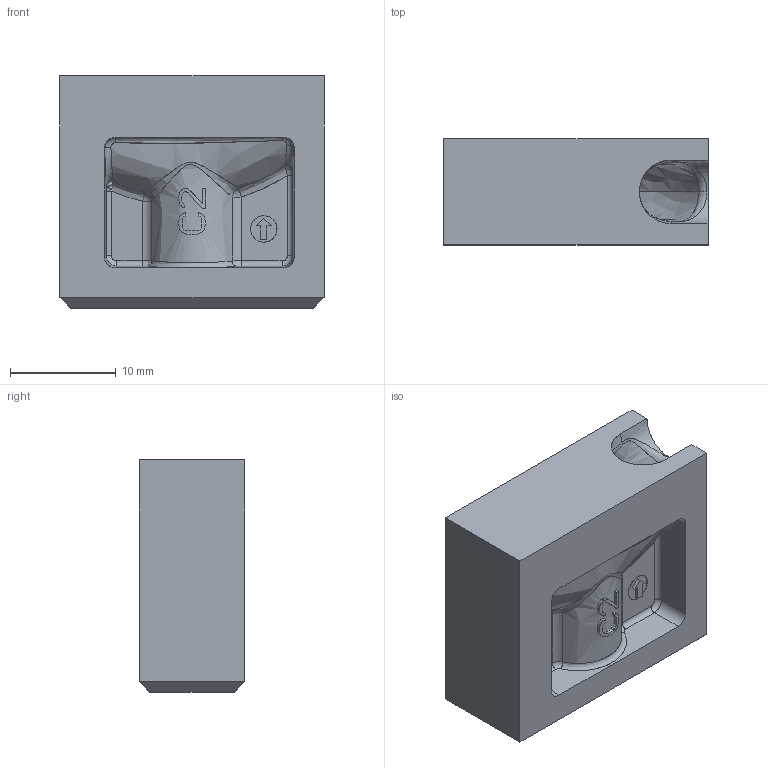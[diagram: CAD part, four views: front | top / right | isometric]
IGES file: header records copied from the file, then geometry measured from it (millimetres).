
Start section: VISI Layer Mapping Iges    VISI  0      0  1      WARNINGS
Global section: file name: G:\Produktkommunikation\Support\CD-Online-Katalog\3D Daten Produkte\E1680_85_90_92_95\E1692_25.igs; native system: VISI 16.0; preprocessor: 2.0; author: PUM; organization: Unknown; date: 20110119.165814; units: millimetre
Bounding box: 25 x 10 x 22 mm (x, y, z)
Surface area: 2898.6 mm2 (no closed solid volume)
Topology: 0 solids, 0 shells, 223 faces, 1656 edges, 1630 vertices
Faces by surface type: bspline 223
